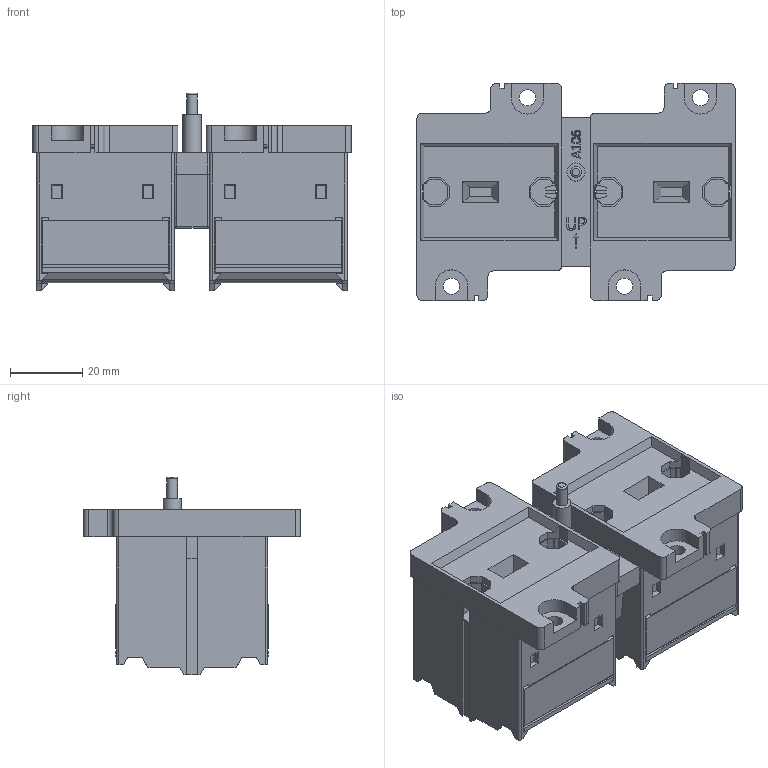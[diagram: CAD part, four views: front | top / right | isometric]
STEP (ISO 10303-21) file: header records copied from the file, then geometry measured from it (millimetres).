
FILE_DESCRIPTION((''),'2;1');
FILE_NAME('I:\TI\Bibliotheek\Inventor\Relais voeten\V88\V88.stp','2012-01-12T14:27:53',('a.vos'),(''),'Autodesk Inventor 2012','Autodesk Inventor 2012','');
FILE_SCHEMA(('AUTOMOTIVE_DESIGN { 1 0 10303 214 1 1 1 1 }'));
Length unit declared in the file: millimetre
Products named in the file (1): V88
Bounding box: 87.8 x 60 x 54.65 mm (x, y, z)
Volume: 133543.5 mm3; surface area: 35654.6 mm2
Topology: 1 solids, 1 shells, 908 faces, 2492 edges, 1585 vertices
Faces by surface type: plane 661, cylinder 134, cone 56, bspline 48, sphere 8, torus 1
Full cylindrical faces by diameter (mm): 3 x1, 4.2 x56, 4.5 x4, 5 x1
Entity records: 28710 total; most frequent: CARTESIAN_POINT 5579, ORIENTED_EDGE 4650, DIRECTION 4310, EDGE_CURVE 2325, VECTOR 1838, LINE 1838, VERTEX_POINT 1545, AXIS2_PLACEMENT_3D 1236
